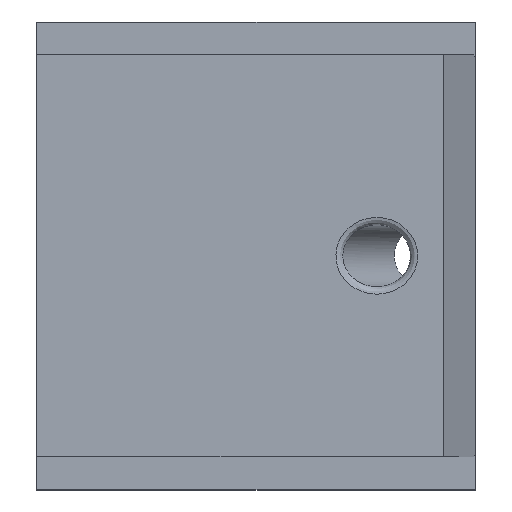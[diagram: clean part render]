
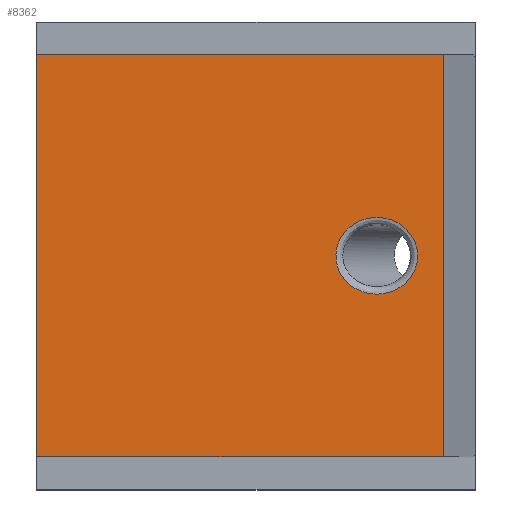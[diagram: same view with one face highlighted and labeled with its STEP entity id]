
A CAD part, top view. The second image highlights one B-rep face of the part: STEP entity #8362.
In plain terms, the highlighted planar face has unit normal (0, 0, 1).
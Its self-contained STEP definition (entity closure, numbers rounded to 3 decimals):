
#649 = VECTOR ( 'NONE', #11408, 1000. ) ;
#765 = CARTESIAN_POINT ( 'NONE',  ( 52.111, 0., 20. ) ) ;
#783 =( BOUNDED_CURVE ( )  B_SPLINE_CURVE ( 3, ( #11509, #3311, #8962, #1381, #6983, #2354, #8900 ),
 .UNSPECIFIED., .T., .F. ) 
 B_SPLINE_CURVE_WITH_KNOTS ( ( 4, 3, 4 ),
 ( 0., 3.142, 6.283 ),
 .UNSPECIFIED. ) 
 CURVE ( )  GEOMETRIC_REPRESENTATION_ITEM ( )  RATIONAL_B_SPLINE_CURVE ( ( 1., 0.333, 0.333, 1., 0.333, 0.333, 1. ) ) 
 REPRESENTATION_ITEM ( '' )  );
#834 = EDGE_LOOP ( 'NONE', ( #7112, #11270, #9866, #1877 ) ) ;
#863 = FACE_BOUND ( 'NONE', #11204, .T. ) ;
#1076 = CARTESIAN_POINT ( 'NONE',  ( 0., 27.5, 20. ) ) ;
#1242 = CARTESIAN_POINT ( 'NONE',  ( 0., -27.5, 20. ) ) ;
#1381 = CARTESIAN_POINT ( 'NONE',  ( 40.937, 0., 20. ) ) ;
#1531 = CARTESIAN_POINT ( 'NONE',  ( 0., 27.5, 20. ) ) ;
#1877 = ORIENTED_EDGE ( 'NONE', *, *, #9168, .T. ) ;
#1889 = EDGE_CURVE ( 'NONE', #5049, #4299, #2969, .T. ) ;
#2084 = LINE ( 'NONE', #11303, #2644 ) ;
#2354 = CARTESIAN_POINT ( 'NONE',  ( 52.111, 10.5, 20. ) ) ;
#2441 = FACE_OUTER_BOUND ( 'NONE', #834, .T. ) ;
#2554 = EDGE_CURVE ( 'NONE', #7234, #4299, #2084, .T. ) ;
#2616 = VECTOR ( 'NONE', #2745, 1000. ) ;
#2644 = VECTOR ( 'NONE', #3824, 1000. ) ;
#2745 = DIRECTION ( 'NONE',  ( 0., -1., 0. ) ) ;
#2754 = LINE ( 'NONE', #5326, #8950 ) ;
#2969 = LINE ( 'NONE', #6637, #649 ) ;
#3040 = ORIENTED_EDGE ( 'NONE', *, *, #8619, .T. ) ;
#3311 = CARTESIAN_POINT ( 'NONE',  ( 52.111, -10.5, 20. ) ) ;
#3373 = AXIS2_PLACEMENT_3D ( 'NONE', #1531, #6102, #6158 ) ;
#3824 = DIRECTION ( 'NONE',  ( 1., 0., 0. ) ) ;
#4299 = VERTEX_POINT ( 'NONE', #11197 ) ;
#5049 = VERTEX_POINT ( 'NONE', #7671 ) ;
#5326 = CARTESIAN_POINT ( 'NONE',  ( 0., 27.5, 20. ) ) ;
#5663 = VERTEX_POINT ( 'NONE', #1076 ) ;
#6102 = DIRECTION ( 'NONE',  ( 0., 0., -1. ) ) ;
#6158 = DIRECTION ( 'NONE',  ( -1., 0., 0. ) ) ;
#6307 = VERTEX_POINT ( 'NONE', #765 ) ;
#6637 = CARTESIAN_POINT ( 'NONE',  ( 55.632, 27.5, 20. ) ) ;
#6983 = CARTESIAN_POINT ( 'NONE',  ( 40.937, 10.5, 20. ) ) ;
#7112 = ORIENTED_EDGE ( 'NONE', *, *, #2554, .T. ) ;
#7188 = PLANE ( 'NONE',  #3373 ) ;
#7202 = DIRECTION ( 'NONE',  ( 1., 0., 0. ) ) ;
#7234 = VERTEX_POINT ( 'NONE', #1242 ) ;
#7308 = LINE ( 'NONE', #10994, #2616 ) ;
#7671 = CARTESIAN_POINT ( 'NONE',  ( 55.632, 27.5, 20. ) ) ;
#7933 = EDGE_CURVE ( 'NONE', #5663, #5049, #2754, .T. ) ;
#8362 = ADVANCED_FACE ( 'NONE', ( #863, #2441 ), #7188, .F. ) ;
#8619 = EDGE_CURVE ( 'NONE', #6307, #6307, #783, .T. ) ;
#8900 = CARTESIAN_POINT ( 'NONE',  ( 52.111, 0., 20. ) ) ;
#8950 = VECTOR ( 'NONE', #7202, 1000. ) ;
#8962 = CARTESIAN_POINT ( 'NONE',  ( 40.937, -10.5, 20. ) ) ;
#9168 = EDGE_CURVE ( 'NONE', #5663, #7234, #7308, .T. ) ;
#9866 = ORIENTED_EDGE ( 'NONE', *, *, #7933, .F. ) ;
#10994 = CARTESIAN_POINT ( 'NONE',  ( 0., 27.5, 20. ) ) ;
#11197 = CARTESIAN_POINT ( 'NONE',  ( 55.632, -27.5, 20. ) ) ;
#11204 = EDGE_LOOP ( 'NONE', ( #3040 ) ) ;
#11270 = ORIENTED_EDGE ( 'NONE', *, *, #1889, .F. ) ;
#11303 = CARTESIAN_POINT ( 'NONE',  ( 0., -27.5, 20. ) ) ;
#11408 = DIRECTION ( 'NONE',  ( 0., -1., 0. ) ) ;
#11509 = CARTESIAN_POINT ( 'NONE',  ( 52.111, 0., 20. ) ) ;
